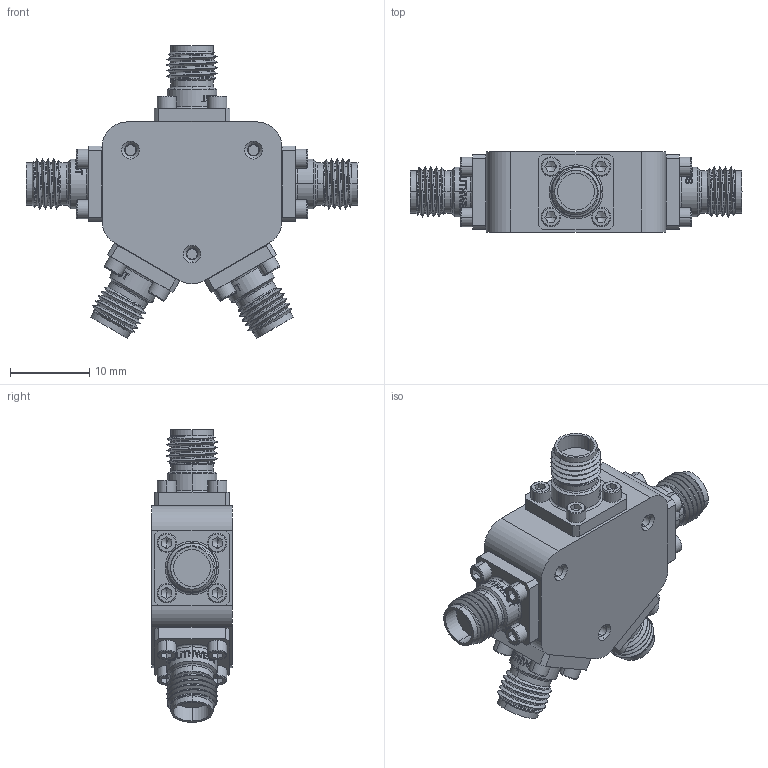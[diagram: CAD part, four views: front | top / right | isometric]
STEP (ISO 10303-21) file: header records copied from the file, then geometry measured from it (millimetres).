
FILE_DESCRIPTION (( 'STEP AP214' ), '1' );
FILE_NAME ('HL9572.STEP', '2024-05-03T16:35:22', ( '' ), ( '' ), 'SwSTEP 2.0', 'SolidWorks 2023', '' );
FILE_SCHEMA (( 'AUTOMOTIVE_DESIGN' ));
Length unit declared in the file: inch
Products named in the file (6): SMA J 4H .375SQ; 100220-4; HL9572; 100221-3; 0-80 x 0.125-73378-Fastenal; PH12007_91771A164
Assembly tree (30 placements, depth 2):
  HL9572
    100220-4
    100221-3
    PH12007_91771A164  x3
    0-80 x 0.125-73378-Fastenal  x20
    SMA J 4H .375SQ  x5
Bounding box: 41.82 x 10.16 x 36.87 mm (x, y, z)
Volume: 5030.2 mm3; surface area: 6120.6 mm2
Topology: 30 solids, 30 shells, 1404 faces, 3556 edges, 2257 vertices
Faces by surface type: plane 554, cylinder 443, cone 238, bspline 139, torus 30
Entity records: 18499 total; most frequent: CARTESIAN_POINT 6908, ORIENTED_EDGE 1952, DIRECTION 1713, EDGE_CURVE 976, AXIS2_PLACEMENT_3D 680, VERTEX_POINT 636, EDGE_LOOP 458, FACE_OUTER_BOUND 385
